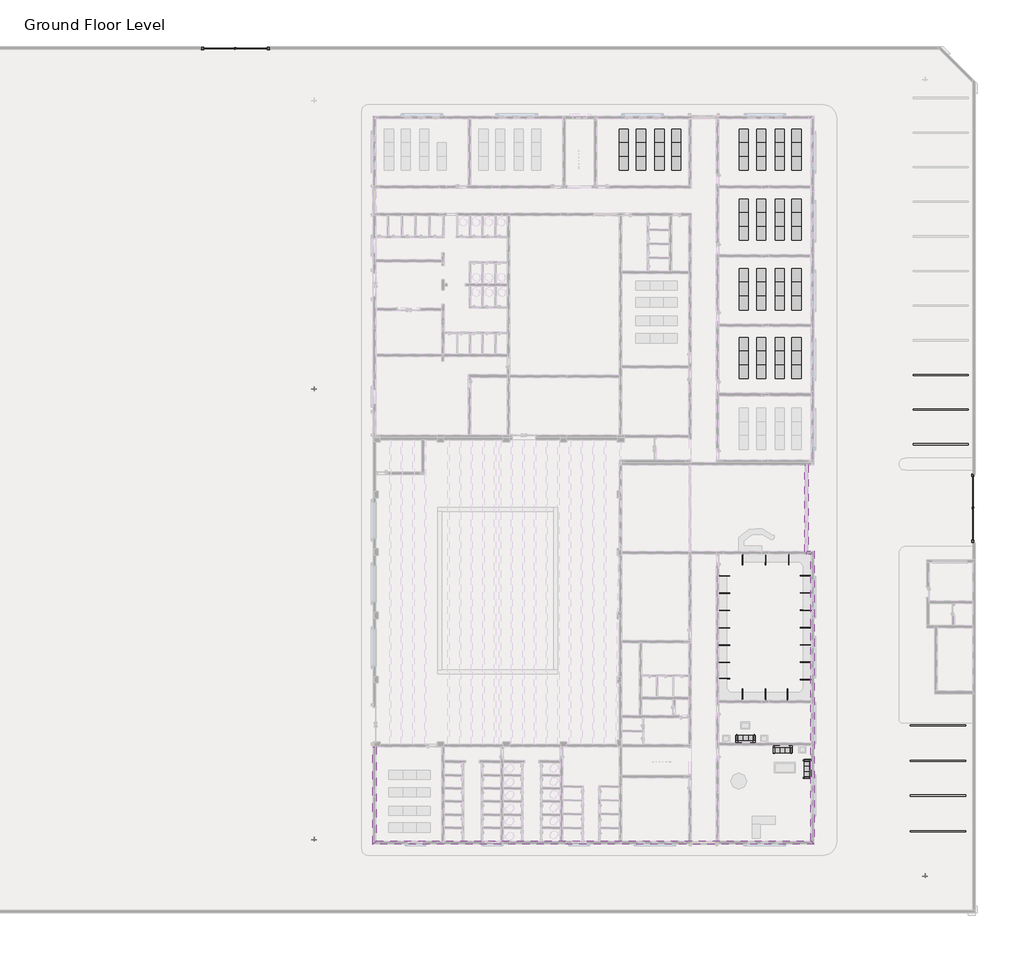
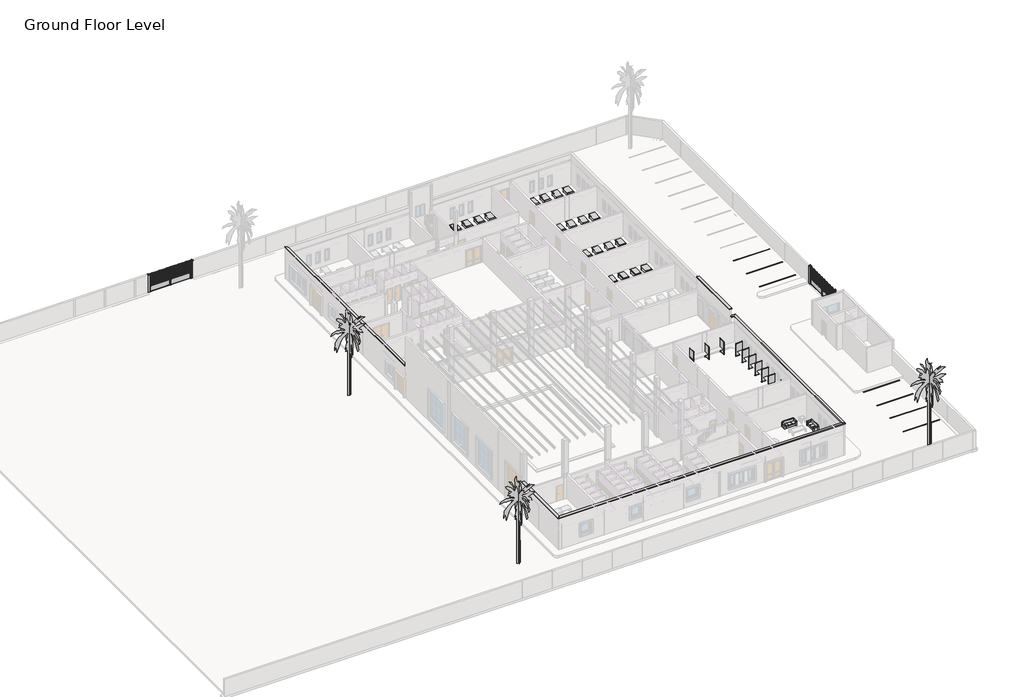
# One storey, part 22 of 23: 60 furniture elements, 49 proxies, 2 geographic elements.
"""IFC4 building model written with IfcOpenShell, lengths in millimetres."""

from ifc_helpers import new_model, si_unit, frame, origin, place, context, project, spatial, polyline, outline, extrude, transform, mapped, element, save
from components import m_parking_space_4800_x_2400mm_90_deg_2b7ae786, m_rpc_plants_cuban_royal_palm_0febebf2, sofa_three_seater_1650_x_700_mm_776af1f2, toilet_cubicle_extension_panel_toilet_cubicle_extension_13565868, toilet_cubicle_extension_panel_toilet_cubicle_extension_865a72fd, toilet_cubicle_extension_panel_toilet_cubicle_extension_87c51e1a, desk_120cm_1200x800_96458f44, norme_d9aae464, norme_461e92e3, norme_834bafc0

model = new_model("IFC4")

# Units and contexts
model_context = context("Model", 3, world=origin())
ifc_project = project(units=[si_unit("LENGTHUNIT", "METRE", prefix="MILLI")], contexts=[model_context])

# Site, building, storey
site = spatial("IfcSite", under=ifc_project)
building = spatial("IfcBuilding", under=site)
storey = spatial("IfcBuildingStorey", under=building, Name="Ground Floor Level", Elevation=900.0)

# Proxies
placement = place(None, origin())
element("IfcBuildingElementProxy", 1, Name="Cornice", ObjectType="Cornice", at=placement, inside=storey, context=model_context, shape_type="SweptSolid", body=[
    extrude(outline(polyline([(15803.0482736, -41104.7846466), (16103.0482736, -41404.7846466), (-22097.2327605, -41404.7846466), (-21797.2327605, -41104.7846466), (15803.0482736, -41104.7846466)])), frame((0.0, 0.0, 5302.8002678), z_axis=(0.0, 0.0, 1.0), x_axis=(1.0, 0.0, 0.0)), (0.0, 0.0, 1.0), 100.0),
    extrude(outline(polyline([(-21797.2327605, -41104.7846466), (-22097.2327605, -41404.7846466), (-22097.2327605, -32964.7846466), (-21797.2327605, -32964.7846466), (-21797.2327605, -41104.7846466)])), frame((0.0, 0.0, 5302.8002678), z_axis=(0.0, 0.0, 1.0), x_axis=(1.0, 0.0, 0.0)), (0.0, 0.0, 1.0), 100.0),
])
element("IfcBuildingElementProxy", 2, Name="Cornice", ObjectType="Cornice", at=placement, inside=storey, context=model_context, shape_type="SweptSolid", body=[
    extrude(outline(polyline([(-21797.2327605, -41104.7846466), (-22097.2327605, -41404.7846466), (-22097.2327605, -32964.7846466), (-21797.2327605, -32964.7846466), (-21797.2327605, -41104.7846466)])), frame((0.0, 0.0, 5302.8002678), z_axis=(0.0, 0.0, 1.0), x_axis=(1.0, 0.0, 0.0)), (0.0, 0.0, 1.0), 100.0),
])
element("IfcBuildingElementProxy", 3, Name="Cornice", ObjectType="Cornice", at=placement, inside=storey, context=model_context, shape_type="SweptSolid", body=[
    extrude(outline(polyline([(15803.0482736, -41104.7846466), (16103.0482736, -41404.7846466), (-22097.2327605, -41404.7846466), (-21797.2327605, -41104.7846466), (15803.0482736, -41104.7846466)])), frame((0.0, 0.0, 5302.8002678), z_axis=(0.0, 0.0, 1.0), x_axis=(1.0, 0.0, 0.0)), (0.0, 0.0, 1.0), 100.0),
])
element("IfcBuildingElementProxy", 4, Name="Cornice", ObjectType="Cornice", at=placement, inside=storey, context=model_context, shape_type="SweptSolid", body=[
    extrude(outline(polyline([(15803.0482736, -41104.7846466), (16103.0482736, -41404.7846466), (-22097.2327605, -41404.7846466), (-21797.2327605, -41104.7846466), (15803.0482736, -41104.7846466)])), frame((0.0, 0.0, 5302.8002678), z_axis=(0.0, 0.0, 1.0), x_axis=(1.0, 0.0, 0.0)), (0.0, 0.0, 1.0), 100.0),
])
element("IfcBuildingElementProxy", 5, Name="Cornice", ObjectType="Cornice", at=placement, inside=storey, context=model_context, shape_type="SweptSolid", body=[
    extrude(outline(polyline([(15803.0482736, -41104.7846466), (16103.0482736, -41404.7846466), (-22097.2327605, -41404.7846466), (-21797.2327605, -41104.7846466), (15803.0482736, -41104.7846466)])), frame((0.0, 0.0, 5302.8002678), z_axis=(0.0, 0.0, 1.0), x_axis=(1.0, 0.0, 0.0)), (0.0, 0.0, 1.0), 100.0),
])
element("IfcBuildingElementProxy", 6, Name="Cornice", ObjectType="Cornice", at=placement, inside=storey, context=model_context, shape_type="SweptSolid", body=[
    extrude(outline(polyline([(15803.0482736, -41104.7846466), (16103.0482736, -41404.7846466), (-22097.2327605, -41404.7846466), (-21797.2327605, -41104.7846466), (15803.0482736, -41104.7846466)])), frame((0.0, 0.0, 5302.8002678), z_axis=(0.0, 0.0, 1.0), x_axis=(1.0, 0.0, 0.0)), (0.0, 0.0, 1.0), 100.0),
])
element("IfcBuildingElementProxy", 7, Name="Cornice", ObjectType="Cornice", at=placement, inside=storey, context=model_context, shape_type="SweptSolid", body=[
    extrude(outline(polyline([(15803.0482736, -41104.7846466), (16103.0482736, -41404.7846466), (-22097.2327605, -41404.7846466), (-21797.2327605, -41104.7846466), (15803.0482736, -41104.7846466)])), frame((0.0, 0.0, 5302.8002678), z_axis=(0.0, 0.0, 1.0), x_axis=(1.0, 0.0, 0.0)), (0.0, 0.0, 1.0), 100.0),
    extrude(outline(polyline([(15803.0482736, -16304.7846466), (16103.0482736, -16004.7846466), (16103.0482736, -41404.7846466), (15803.0482736, -41104.7846466), (15803.0482736, -16304.7846466)])), frame((0.0, 0.0, 5302.8002678), z_axis=(0.0, 0.0, 1.0), x_axis=(1.0, 0.0, 0.0)), (0.0, 0.0, 1.0), 100.0),
])
element("IfcBuildingElementProxy", 8, Name="Cornice", ObjectType="Cornice", at=placement, inside=storey, context=model_context, shape_type="SweptSolid", body=[
    extrude(outline(polyline([(15602.7672395, -16044.7846466), (15302.7672395, -16044.7846466), (15302.7672395, -8564.7846466), (15602.7672395, -8564.7846466), (15602.7672395, -16044.7846466)])), frame((0.0, 0.0, 6301.5214377), z_axis=(0.0, 0.0, 1.0), x_axis=(1.0, 0.0, 0.0)), (0.0, 0.0, 1.0), 100.0),
])
element("IfcBuildingElementProxy", 9, Name="Cornice", ObjectType="Cornice", at=placement, inside=storey, context=model_context, shape_type="SweptSolid", body=[
    extrude(outline(polyline([(15803.0482736, -16304.7846466), (16103.0482736, -16004.7846466), (16103.0482736, -41404.7846466), (15803.0482736, -41104.7846466), (15803.0482736, -16304.7846466)])), frame((0.0, 0.0, 5302.8002678), z_axis=(0.0, 0.0, 1.0), x_axis=(1.0, 0.0, 0.0)), (0.0, 0.0, 1.0), 100.0),
])
element("IfcBuildingElementProxy", 10, Name="Cornice", ObjectType="Cornice", at=placement, inside=storey, context=model_context, shape_type="SweptSolid", body=[
    extrude(outline(polyline([(15803.0482736, -16304.7846466), (16103.0482736, -16004.7846466), (16103.0482736, -41404.7846466), (15803.0482736, -41104.7846466), (15803.0482736, -16304.7846466)])), frame((0.0, 0.0, 5302.8002678), z_axis=(0.0, 0.0, 1.0), x_axis=(1.0, 0.0, 0.0)), (0.0, 0.0, 1.0), 100.0),
])
element("IfcBuildingElementProxy", 11, Name="Cornice", ObjectType="Cornice", at=placement, inside=storey, context=model_context, shape_type="SweptSolid", body=[
    extrude(outline(polyline([(15803.0482736, -16304.7846466), (16103.0482736, -16004.7846466), (16103.0482736, -41404.7846466), (15803.0482736, -41104.7846466), (15803.0482736, -16304.7846466)])), frame((0.0, 0.0, 5302.8002678), z_axis=(0.0, 0.0, 1.0), x_axis=(1.0, 0.0, 0.0)), (0.0, 0.0, 1.0), 100.0),
])
element("IfcBuildingElementProxy", 12, Name="Cornice", ObjectType="Cornice", at=placement, inside=storey, context=model_context, shape_type="SweptSolid", body=[
    extrude(outline(polyline([(15452.7672395, -16304.7846466), (15452.7672395, -16004.7846466), (16103.0482736, -16004.7846466), (15803.0482736, -16304.7846466), (15452.7672395, -16304.7846466)])), frame((0.0, 0.0, 5302.8002678), z_axis=(0.0, 0.0, 1.0), x_axis=(1.0, 0.0, 0.0)), (0.0, 0.0, 1.0), 100.0),
    extrude(outline(polyline([(15803.0482736, -16304.7846466), (16103.0482736, -16004.7846466), (16103.0482736, -41404.7846466), (15803.0482736, -41104.7846466), (15803.0482736, -16304.7846466)])), frame((0.0, 0.0, 5302.8002678), z_axis=(0.0, 0.0, 1.0), x_axis=(1.0, 0.0, 0.0)), (0.0, 0.0, 1.0), 100.0),
])
element("IfcBuildingElementProxy", 13, Name="Cornice", ObjectType="Cornice", at=placement, inside=storey, context=model_context, shape_type="SweptSolid", body=[
    extrude(outline(polyline([(-21797.2327605, -5944.7846466), (-22097.2327605, -5944.7846466), (-22097.2327605, 21695.2153534), (-21797.2327605, 21395.2153534), (-21797.2327605, -5944.7846466)])), frame((0.0, 0.0, 5302.8002678), z_axis=(0.0, 0.0, 1.0), x_axis=(1.0, 0.0, 0.0)), (0.0, 0.0, 1.0), 100.0),
])
element("IfcBuildingElementProxy", 14, Name="Cornice", ObjectType="Cornice", at=placement, inside=storey, context=model_context, shape_type="SweptSolid", body=[
    extrude(outline(polyline([(-21797.2327605, -5944.7846466), (-22097.2327605, -5944.7846466), (-22097.2327605, 21695.2153534), (-21797.2327605, 21395.2153534), (-21797.2327605, -5944.7846466)])), frame((0.0, 0.0, 5302.8002678), z_axis=(0.0, 0.0, 1.0), x_axis=(1.0, 0.0, 0.0)), (0.0, 0.0, 1.0), 100.0),
])
element("IfcBuildingElementProxy", 15, Name="Cornice", ObjectType="Cornice", at=placement, inside=storey, context=model_context, shape_type="SweptSolid", body=[
    extrude(outline(polyline([(-21797.2327605, -5944.7846466), (-22097.2327605, -5944.7846466), (-22097.2327605, 21695.2153534), (-21797.2327605, 21395.2153534), (-21797.2327605, -5944.7846466)])), frame((0.0, 0.0, 5302.8002678), z_axis=(0.0, 0.0, 1.0), x_axis=(1.0, 0.0, 0.0)), (0.0, 0.0, 1.0), 100.0),
])
element("IfcBuildingElementProxy", 16, Name="Cornice", ObjectType="Cornice", at=placement, inside=storey, context=model_context, shape_type="SweptSolid", body=[
    extrude(outline(polyline([(-21797.2327605, -5944.7846466), (-22097.2327605, -5944.7846466), (-22097.2327605, 21695.2153534), (-21797.2327605, 21395.2153534), (-21797.2327605, -5944.7846466)])), frame((0.0, 0.0, 5302.8002678), z_axis=(0.0, 0.0, 1.0), x_axis=(1.0, 0.0, 0.0)), (0.0, 0.0, 1.0), 100.0),
])
m_parking_space_4800_x_2400mm_90_deg_shape = m_parking_space_4800_x_2400mm_90_deg_2b7ae786(model_context)
element("IfcBuildingElementProxy", 17, Name="M_Parking Space : 4800 x 2400mm - 90 deg", ObjectType="M_Parking Space : 4800 x 2400mm - 90 deg", at=placement, inside=storey, context=model_context, shape_type="MappedRepresentation", body=[
    mapped(m_parking_space_4800_x_2400mm_90_deg_shape, transform((29462.7672395, -754.7846468, 600.0), x_axis=(0.0, -1.0, 0.0), y_axis=(1.0, 0.0, 0.0), z_axis=(0.0, 0.0, 1.0))),
])
element("IfcBuildingElementProxy", 18, Name="M_Parking Space : 4800 x 2400mm - 90 deg", ObjectType="M_Parking Space : 4800 x 2400mm - 90 deg", at=placement, inside=storey, context=model_context, shape_type="MappedRepresentation", body=[
    mapped(m_parking_space_4800_x_2400mm_90_deg_shape, transform((29462.7672395, -3754.7846468, 600.0), x_axis=(0.0, -1.0, 0.0), y_axis=(1.0, 0.0, 0.0), z_axis=(0.0, 0.0, 1.0))),
])
element("IfcBuildingElementProxy", 19, Name="M_Parking Space : 4800 x 2400mm - 90 deg", ObjectType="M_Parking Space : 4800 x 2400mm - 90 deg", at=placement, inside=storey, context=model_context, shape_type="MappedRepresentation", body=[
    mapped(m_parking_space_4800_x_2400mm_90_deg_shape, transform((29462.7672395, -6754.7846468, 600.0), x_axis=(0.0, -1.0, 0.0), y_axis=(1.0, 0.0, 0.0), z_axis=(0.0, 0.0, 1.0))),
])
element("IfcBuildingElementProxy", 20, Name="M_Parking Space : 4800 x 2400mm - 90 deg", ObjectType="M_Parking Space : 4800 x 2400mm - 90 deg", at=placement, inside=storey, context=model_context, shape_type="MappedRepresentation", body=[
    mapped(m_parking_space_4800_x_2400mm_90_deg_shape, transform((29242.7672395, -31104.7846459, 600.0), x_axis=(0.0, -1.0, 0.0), y_axis=(1.0, 0.0, 0.0), z_axis=(0.0, 0.0, 1.0))),
])
element("IfcBuildingElementProxy", 21, Name="M_Parking Space : 4800 x 2400mm - 90 deg", ObjectType="M_Parking Space : 4800 x 2400mm - 90 deg", at=placement, inside=storey, context=model_context, shape_type="MappedRepresentation", body=[
    mapped(m_parking_space_4800_x_2400mm_90_deg_shape, transform((29242.7672395, -34196.1301006, 600.0), x_axis=(0.0, -1.0, 0.0), y_axis=(1.0, 0.0, 0.0), z_axis=(0.0, 0.0, 1.0))),
])
element("IfcBuildingElementProxy", 22, Name="M_Parking Space : 4800 x 2400mm - 90 deg", ObjectType="M_Parking Space : 4800 x 2400mm - 90 deg", at=placement, inside=storey, context=model_context, shape_type="MappedRepresentation", body=[
    mapped(m_parking_space_4800_x_2400mm_90_deg_shape, transform((29242.7672395, -37196.1301006, 600.0), x_axis=(0.0, -1.0, 0.0), y_axis=(1.0, 0.0, 0.0), z_axis=(0.0, 0.0, 1.0))),
])
element("IfcBuildingElementProxy", 23, Name="M_Parking Space : 4800 x 2400mm - 90 deg", ObjectType="M_Parking Space : 4800 x 2400mm - 90 deg", at=placement, inside=storey, context=model_context, shape_type="MappedRepresentation", body=[
    mapped(m_parking_space_4800_x_2400mm_90_deg_shape, transform((29242.7672395, -40296.1301006, 600.0), x_axis=(0.0, -1.0, 0.0), y_axis=(1.0, 0.0, 0.0), z_axis=(0.0, 0.0, 1.0))),
])
m_rpc_plants_cuban_royal_palm_shape = m_rpc_plants_cuban_royal_palm_0febebf2(model_context)
element("IfcBuildingElementProxy", 24, Name="M_RPC Plants : Cuban Royal Palm", ObjectType="M_RPC Plants : Cuban Royal Palm", at=placement, inside=storey, context=model_context, shape_type="MappedRepresentation", body=[
    mapped(m_rpc_plants_cuban_royal_palm_shape, transform((-27196.8558395, -1997.0706872, 500.0), x_axis=(1.0, 0.0, 0.0), y_axis=(0.0, 1.0, 0.0), z_axis=(0.0, 0.0, 1.0))),
])
element("IfcBuildingElementProxy", 25, Name="M_RPC Plants : Cuban Royal Palm", ObjectType="M_RPC Plants : Cuban Royal Palm", at=placement, inside=storey, context=model_context, shape_type="MappedRepresentation", body=[
    mapped(m_rpc_plants_cuban_royal_palm_shape, transform((-27196.8558395, -41017.0706872, 500.0), x_axis=(1.0, 0.0, 0.0), y_axis=(0.0, 1.0, 0.0), z_axis=(0.0, 0.0, 1.0))),
])
element("IfcBuildingElementProxy", 26, Name="M_RPC Plants : Cuban Royal Palm", ObjectType="M_RPC Plants : Cuban Royal Palm", at=placement, inside=storey, context=model_context, shape_type="MappedRepresentation", body=[
    mapped(m_rpc_plants_cuban_royal_palm_shape, transform((25703.1441605, -44169.7619811, 500.0), x_axis=(1.0, 0.0, 0.0), y_axis=(0.0, 1.0, 0.0), z_axis=(0.0, 0.0, 1.0))),
])
sofa_three_seater_1650_x_700_mm_shape = sofa_three_seater_1650_x_700_mm_776af1f2(model_context)
element("IfcBuildingElementProxy", 27, Name="Sofa Three Seater : 1650 x 700 mm", ObjectType="Sofa Three Seater : 1650 x 700 mm", at=placement, inside=storey, context=model_context, shape_type="MappedRepresentation", body=[
    mapped(sofa_three_seater_1650_x_700_mm_shape, transform((10161.7423977, -32256.5047258, 1000.0), x_axis=(-1.0, 0.0, 0.0), y_axis=(0.0, -1.0, 0.0), z_axis=(0.0, 0.0, 1.0))),
])
element("IfcBuildingElementProxy", 28, Name="Sofa Three Seater : 1650 x 700 mm", ObjectType="Sofa Three Seater : 1650 x 700 mm", at=placement, inside=storey, context=model_context, shape_type="MappedRepresentation", body=[
    mapped(sofa_three_seater_1650_x_700_mm_shape, transform((13374.4908153, -33204.7846467, 1000.0), x_axis=(0.9999999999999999, 0.0, 0.0), y_axis=(0.0, 0.9999999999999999, 0.0), z_axis=(0.0, 0.0, 1.0))),
])
element("IfcBuildingElementProxy", 29, Name="Sofa Three Seater : 1650 x 700 mm", ObjectType="Sofa Three Seater : 1650 x 700 mm", at=placement, inside=storey, context=model_context, shape_type="MappedRepresentation", body=[
    mapped(sofa_three_seater_1650_x_700_mm_shape, transform((15502.7672394, -34897.6404237, 1000.0), x_axis=(0.0, -1.0, 0.0), y_axis=(1.0, 0.0, 0.0), z_axis=(0.0, 0.0, 1.0))),
])
toilet_cubicle_extension_panel_toilet_cubicle_extension_shape = toilet_cubicle_extension_panel_toilet_cubicle_extension_13565868(model_context)
element("IfcBuildingElementProxy", 30, Name="Toilet Cubicle Extension Panel : Toilet Cubicle Extension Panel", ObjectType="Toilet Cubicle Extension Panel : Toilet Cubicle Extension Panel", at=placement, inside=storey, context=model_context, shape_type="MappedRepresentation", body=[
    mapped(toilet_cubicle_extension_panel_toilet_cubicle_extension_shape, transform((11702.7672395, -15866.8535761, 1000.0), x_axis=(0.0, -1.0, 0.0), y_axis=(1.0, 0.0, 0.0), z_axis=(0.0, 0.0, 1.0))),
])
element("IfcBuildingElementProxy", 31, Name="Toilet Cubicle Extension Panel : Toilet Cubicle Extension Panel", ObjectType="Toilet Cubicle Extension Panel : Toilet Cubicle Extension Panel", at=placement, inside=storey, context=model_context, shape_type="MappedRepresentation", body=[
    mapped(toilet_cubicle_extension_panel_toilet_cubicle_extension_shape, transform((13702.7672395, -15866.8535761, 1000.0), x_axis=(0.0, -1.0, 0.0), y_axis=(1.0, 0.0, 0.0), z_axis=(0.0, 0.0, 1.0))),
])
element("IfcBuildingElementProxy", 32, Name="Toilet Cubicle Extension Panel : Toilet Cubicle Extension Panel", ObjectType="Toilet Cubicle Extension Panel : Toilet Cubicle Extension Panel", at=placement, inside=storey, context=model_context, shape_type="MappedRepresentation", body=[
    mapped(toilet_cubicle_extension_panel_toilet_cubicle_extension_shape, transform((15712.7672395, -15866.8535761, 1000.0), x_axis=(0.0, -1.0, 0.0), y_axis=(1.0, 0.0, 0.0), z_axis=(0.0, 0.0, 1.0))),
])
toilet_cubicle_extension_panel_toilet_cubicle_extension_2_shape = toilet_cubicle_extension_panel_toilet_cubicle_extension_865a72fd(model_context)
element("IfcBuildingElementProxy", 33, Name="Toilet Cubicle Extension Panel : Toilet Cubicle Extension Panel", ObjectType="Toilet Cubicle Extension Panel : Toilet Cubicle Extension Panel", at=placement, inside=storey, context=model_context, shape_type="MappedRepresentation", body=[
    mapped(toilet_cubicle_extension_panel_toilet_cubicle_extension_2_shape, transform((16240.9793442, -19954.7846466, 1000.0), x_axis=(-1.0, 0.0, 0.0), y_axis=(0.0, -1.0, 0.0), z_axis=(0.0, 0.0, 1.0))),
])
element("IfcBuildingElementProxy", 34, Name="Toilet Cubicle Extension Panel : Toilet Cubicle Extension Panel", ObjectType="Toilet Cubicle Extension Panel : Toilet Cubicle Extension Panel", at=placement, inside=storey, context=model_context, shape_type="MappedRepresentation", body=[
    mapped(toilet_cubicle_extension_panel_toilet_cubicle_extension_2_shape, transform((16240.9793442, -21444.7846466, 1000.0), x_axis=(-1.0, 0.0, 0.0), y_axis=(0.0, -1.0, 0.0), z_axis=(0.0, 0.0, 1.0))),
])
element("IfcBuildingElementProxy", 35, Name="Toilet Cubicle Extension Panel : Toilet Cubicle Extension Panel", ObjectType="Toilet Cubicle Extension Panel : Toilet Cubicle Extension Panel", at=placement, inside=storey, context=model_context, shape_type="MappedRepresentation", body=[
    mapped(toilet_cubicle_extension_panel_toilet_cubicle_extension_2_shape, transform((16240.9793442, -22944.7846466, 1000.0), x_axis=(-1.0, 0.0, 0.0), y_axis=(0.0, -1.0, 0.0), z_axis=(0.0, 0.0, 1.0))),
])
element("IfcBuildingElementProxy", 36, Name="Toilet Cubicle Extension Panel : Toilet Cubicle Extension Panel", ObjectType="Toilet Cubicle Extension Panel : Toilet Cubicle Extension Panel", at=placement, inside=storey, context=model_context, shape_type="MappedRepresentation", body=[
    mapped(toilet_cubicle_extension_panel_toilet_cubicle_extension_2_shape, transform((16240.9793442, -24444.2219449, 1000.0), x_axis=(-1.0, 0.0, 0.0), y_axis=(0.0, -1.0, 0.0), z_axis=(0.0, 0.0, 1.0))),
])
element("IfcBuildingElementProxy", 37, Name="Toilet Cubicle Extension Panel : Toilet Cubicle Extension Panel", ObjectType="Toilet Cubicle Extension Panel : Toilet Cubicle Extension Panel", at=placement, inside=storey, context=model_context, shape_type="MappedRepresentation", body=[
    mapped(toilet_cubicle_extension_panel_toilet_cubicle_extension_2_shape, transform((16240.9793442, -25943.6592431, 1000.0), x_axis=(-1.0, 0.0, 0.0), y_axis=(0.0, -1.0, 0.0), z_axis=(0.0, 0.0, 1.0))),
])
element("IfcBuildingElementProxy", 38, Name="Toilet Cubicle Extension Panel : Toilet Cubicle Extension Panel", ObjectType="Toilet Cubicle Extension Panel : Toilet Cubicle Extension Panel", at=placement, inside=storey, context=model_context, shape_type="MappedRepresentation", body=[
    mapped(toilet_cubicle_extension_panel_toilet_cubicle_extension_2_shape, transform((16240.9793442, -27443.0965414, 1000.0), x_axis=(-1.0, 0.0, 0.0), y_axis=(0.0, -1.0, 0.0), z_axis=(0.0, 0.0, 1.0))),
])
element("IfcBuildingElementProxy", 39, Name="Toilet Cubicle Extension Panel : Toilet Cubicle Extension Panel", ObjectType="Toilet Cubicle Extension Panel : Toilet Cubicle Extension Panel", at=placement, inside=storey, context=model_context, shape_type="MappedRepresentation", body=[
    mapped(toilet_cubicle_extension_panel_toilet_cubicle_extension_2_shape, transform((16240.9793442, -28942.5338397, 1000.0), x_axis=(-1.0, 0.0, 0.0), y_axis=(0.0, -1.0, 0.0), z_axis=(0.0, 0.0, 1.0))),
])
toilet_cubicle_extension_panel_toilet_cubicle_extension_3_shape = toilet_cubicle_extension_panel_toilet_cubicle_extension_87c51e1a(model_context)
element("IfcBuildingElementProxy", 40, Name="Toilet Cubicle Extension Panel : Toilet Cubicle Extension Panel", ObjectType="Toilet Cubicle Extension Panel : Toilet Cubicle Extension Panel", at=placement, inside=storey, context=model_context, shape_type="MappedRepresentation", body=[
    mapped(toilet_cubicle_extension_panel_toilet_cubicle_extension_3_shape, transform((12002.7672395, -29317.7157172, 1000.0), x_axis=(0.0, 1.0, 0.0), y_axis=(-1.0, 0.0, 0.0), z_axis=(0.0, 0.0, 1.0))),
])
element("IfcBuildingElementProxy", 41, Name="Toilet Cubicle Extension Panel : Toilet Cubicle Extension Panel", ObjectType="Toilet Cubicle Extension Panel : Toilet Cubicle Extension Panel", at=placement, inside=storey, context=model_context, shape_type="MappedRepresentation", body=[
    mapped(toilet_cubicle_extension_panel_toilet_cubicle_extension_3_shape, transform((10092.7672395, -29317.7157172, 1000.0), x_axis=(0.0, 1.0, 0.0), y_axis=(-1.0, 0.0, 0.0), z_axis=(0.0, 0.0, 1.0))),
])
element("IfcBuildingElementProxy", 42, Name="Toilet Cubicle Extension Panel : Toilet Cubicle Extension Panel", ObjectType="Toilet Cubicle Extension Panel : Toilet Cubicle Extension Panel", at=placement, inside=storey, context=model_context, shape_type="MappedRepresentation", body=[
    mapped(toilet_cubicle_extension_panel_toilet_cubicle_extension_3_shape, transform((8092.7672395, -29317.7157172, 1000.0), x_axis=(0.0, 1.0, 0.0), y_axis=(-1.0, 0.0, 0.0), z_axis=(0.0, 0.0, 1.0))),
])
element("IfcBuildingElementProxy", 43, Name="Toilet Cubicle Extension Panel : Toilet Cubicle Extension Panel", ObjectType="Toilet Cubicle Extension Panel : Toilet Cubicle Extension Panel", at=placement, inside=storey, context=model_context, shape_type="MappedRepresentation", body=[
    mapped(toilet_cubicle_extension_panel_toilet_cubicle_extension_3_shape, transform((7464.8361689, -25252.5338397, 1000.0), x_axis=(1.0, 0.0, 0.0), y_axis=(0.0, 1.0, 0.0), z_axis=(0.0, 0.0, 1.0))),
])
element("IfcBuildingElementProxy", 44, Name="Toilet Cubicle Extension Panel : Toilet Cubicle Extension Panel", ObjectType="Toilet Cubicle Extension Panel : Toilet Cubicle Extension Panel", at=placement, inside=storey, context=model_context, shape_type="MappedRepresentation", body=[
    mapped(toilet_cubicle_extension_panel_toilet_cubicle_extension_3_shape, transform((7464.8361689, -23863.0965414, 1000.0), x_axis=(1.0, 0.0, 0.0), y_axis=(0.0, 1.0, 0.0), z_axis=(0.0, 0.0, 1.0))),
])
element("IfcBuildingElementProxy", 45, Name="Toilet Cubicle Extension Panel : Toilet Cubicle Extension Panel", ObjectType="Toilet Cubicle Extension Panel : Toilet Cubicle Extension Panel", at=placement, inside=storey, context=model_context, shape_type="MappedRepresentation", body=[
    mapped(toilet_cubicle_extension_panel_toilet_cubicle_extension_3_shape, transform((7464.8361689, -22363.6592431, 1000.0), x_axis=(1.0, 0.0, 0.0), y_axis=(0.0, 1.0, 0.0), z_axis=(0.0, 0.0, 1.0))),
])
element("IfcBuildingElementProxy", 46, Name="Toilet Cubicle Extension Panel : Toilet Cubicle Extension Panel", ObjectType="Toilet Cubicle Extension Panel : Toilet Cubicle Extension Panel", at=placement, inside=storey, context=model_context, shape_type="MappedRepresentation", body=[
    mapped(toilet_cubicle_extension_panel_toilet_cubicle_extension_3_shape, transform((7464.8361689, -20864.2219449, 1000.0), x_axis=(1.0, 0.0, 0.0), y_axis=(0.0, 1.0, 0.0), z_axis=(0.0, 0.0, 1.0))),
])
element("IfcBuildingElementProxy", 47, Name="Toilet Cubicle Extension Panel : Toilet Cubicle Extension Panel", ObjectType="Toilet Cubicle Extension Panel : Toilet Cubicle Extension Panel", at=placement, inside=storey, context=model_context, shape_type="MappedRepresentation", body=[
    mapped(toilet_cubicle_extension_panel_toilet_cubicle_extension_3_shape, transform((7464.8361689, -19364.2219449, 1000.0), x_axis=(1.0, 0.0, 0.0), y_axis=(0.0, 1.0, 0.0), z_axis=(0.0, 0.0, 1.0))),
])
element("IfcBuildingElementProxy", 48, Name="Toilet Cubicle Extension Panel : Toilet Cubicle Extension Panel", ObjectType="Toilet Cubicle Extension Panel : Toilet Cubicle Extension Panel", at=placement, inside=storey, context=model_context, shape_type="MappedRepresentation", body=[
    mapped(toilet_cubicle_extension_panel_toilet_cubicle_extension_3_shape, transform((7464.8361689, -17864.2219449, 1000.0), x_axis=(1.0, 0.0, 0.0), y_axis=(0.0, 1.0, 0.0), z_axis=(0.0, 0.0, 1.0))),
])
element("IfcBuildingElementProxy", 49, Name="Toilet Cubicle Extension Panel : Toilet Cubicle Extension Panel", ObjectType="Toilet Cubicle Extension Panel : Toilet Cubicle Extension Panel", at=placement, inside=storey, context=model_context, shape_type="MappedRepresentation", body=[
    mapped(toilet_cubicle_extension_panel_toilet_cubicle_extension_3_shape, transform((7464.8361689, -16364.2219449, 1000.0), x_axis=(1.0, 0.0, 0.0), y_axis=(0.0, 1.0, 0.0), z_axis=(0.0, 0.0, 1.0))),
])

# Furniture
desk_120cm_1200x800_shape = desk_120cm_1200x800_96458f44(model_context)
element("IfcFurniture", 50, ObjectType="Desk -120cm : 1200x800", at=placement, inside=storey, context=model_context, shape_type="MappedRepresentation", body=[
    mapped(desk_120cm_1200x800_shape, transform((7.7582381, 18163.9275564, 900.0), x_axis=(-1.0, 0.0, 0.0), y_axis=(0.0, -1.0, 0.0), z_axis=(0.0, 0.0, 1.0))),
])
element("IfcFurniture", 51, ObjectType="Desk -120cm : 1200x800", at=placement, inside=storey, context=model_context, shape_type="MappedRepresentation", body=[
    mapped(desk_120cm_1200x800_shape, transform((7.7582381, 19358.9275564, 900.0), x_axis=(-1.0, 0.0, 0.0), y_axis=(0.0, -1.0, 0.0), z_axis=(0.0, 0.0, 1.0))),
])
element("IfcFurniture", 52, ObjectType="Desk -120cm : 1200x800", at=placement, inside=storey, context=model_context, shape_type="MappedRepresentation", body=[
    mapped(desk_120cm_1200x800_shape, transform((7.7582381, 20553.9275564, 900.0), x_axis=(-1.0, 0.0, 0.0), y_axis=(0.0, -1.0, 0.0), z_axis=(0.0, 0.0, 1.0))),
])
element("IfcFurniture", 53, ObjectType="Desk -120cm : 1200x800", at=placement, inside=storey, context=model_context, shape_type="MappedRepresentation", body=[
    mapped(desk_120cm_1200x800_shape, transform((1515.4397827, 18163.9275564, 900.0), x_axis=(-1.0, 0.0, 0.0), y_axis=(0.0, -1.0, 0.0), z_axis=(0.0, 0.0, 1.0))),
])
element("IfcFurniture", 54, ObjectType="Desk -120cm : 1200x800", at=placement, inside=storey, context=model_context, shape_type="MappedRepresentation", body=[
    mapped(desk_120cm_1200x800_shape, transform((1515.4397827, 19358.9275564, 900.0), x_axis=(-1.0, 0.0, 0.0), y_axis=(0.0, -1.0, 0.0), z_axis=(0.0, 0.0, 1.0))),
])
element("IfcFurniture", 55, ObjectType="Desk -120cm : 1200x800", at=placement, inside=storey, context=model_context, shape_type="MappedRepresentation", body=[
    mapped(desk_120cm_1200x800_shape, transform((1515.4397827, 20553.9275564, 900.0), x_axis=(-1.0, 0.0, 0.0), y_axis=(0.0, -1.0, 0.0), z_axis=(0.0, 0.0, 1.0))),
])
element("IfcFurniture", 56, ObjectType="Desk -120cm : 1200x800", at=placement, inside=storey, context=model_context, shape_type="MappedRepresentation", body=[
    mapped(desk_120cm_1200x800_shape, transform((3115.4397827, 18163.9275564, 900.0), x_axis=(-1.0, 0.0, 0.0), y_axis=(0.0, -1.0, 0.0), z_axis=(0.0, 0.0, 1.0))),
])
element("IfcFurniture", 57, ObjectType="Desk -120cm : 1200x800", at=placement, inside=storey, context=model_context, shape_type="MappedRepresentation", body=[
    mapped(desk_120cm_1200x800_shape, transform((3115.4397827, 19358.9275564, 900.0), x_axis=(-1.0, 0.0, 0.0), y_axis=(0.0, -1.0, 0.0), z_axis=(0.0, 0.0, 1.0))),
])
element("IfcFurniture", 58, ObjectType="Desk -120cm : 1200x800", at=placement, inside=storey, context=model_context, shape_type="MappedRepresentation", body=[
    mapped(desk_120cm_1200x800_shape, transform((3115.4397827, 20553.9275564, 900.0), x_axis=(-1.0, 0.0, 0.0), y_axis=(0.0, -1.0, 0.0), z_axis=(0.0, 0.0, 1.0))),
])
element("IfcFurniture", 59, ObjectType="Desk -120cm : 1200x800", at=placement, inside=storey, context=model_context, shape_type="MappedRepresentation", body=[
    mapped(desk_120cm_1200x800_shape, transform((4572.0525795, 18163.9275564, 900.0), x_axis=(-1.0, 0.0, 0.0), y_axis=(0.0, -1.0, 0.0), z_axis=(0.0, 0.0, 1.0))),
])
element("IfcFurniture", 60, ObjectType="Desk -120cm : 1200x800", at=placement, inside=storey, context=model_context, shape_type="MappedRepresentation", body=[
    mapped(desk_120cm_1200x800_shape, transform((4572.0525795, 19358.9275564, 900.0), x_axis=(-1.0, 0.0, 0.0), y_axis=(0.0, -1.0, 0.0), z_axis=(0.0, 0.0, 1.0))),
])
element("IfcFurniture", 61, ObjectType="Desk -120cm : 1200x800", at=placement, inside=storey, context=model_context, shape_type="MappedRepresentation", body=[
    mapped(desk_120cm_1200x800_shape, transform((4572.0525795, 20553.9275564, 900.0), x_axis=(-1.0, 0.0, 0.0), y_axis=(0.0, -1.0, 0.0), z_axis=(0.0, 0.0, 1.0))),
])
element("IfcFurniture", 62, ObjectType="Desk -120cm : 1200x800", at=placement, inside=storey, context=model_context, shape_type="MappedRepresentation", body=[
    mapped(desk_120cm_1200x800_shape, transform((10410.0766935, 18163.9275564, 900.0), x_axis=(-1.0, 0.0, 0.0), y_axis=(0.0, -1.0, 0.0), z_axis=(0.0, 0.0, 1.0))),
])
element("IfcFurniture", 63, ObjectType="Desk -120cm : 1200x800", at=placement, inside=storey, context=model_context, shape_type="MappedRepresentation", body=[
    mapped(desk_120cm_1200x800_shape, transform((10410.0766935, 19358.9275564, 900.0), x_axis=(-1.0, 0.0, 0.0), y_axis=(0.0, -1.0, 0.0), z_axis=(0.0, 0.0, 1.0))),
])
element("IfcFurniture", 64, ObjectType="Desk -120cm : 1200x800", at=placement, inside=storey, context=model_context, shape_type="MappedRepresentation", body=[
    mapped(desk_120cm_1200x800_shape, transform((10410.0766935, 20553.9275564, 900.0), x_axis=(-1.0, 0.0, 0.0), y_axis=(0.0, -1.0, 0.0), z_axis=(0.0, 0.0, 1.0))),
])
element("IfcFurniture", 65, ObjectType="Desk -120cm : 1200x800", at=placement, inside=storey, context=model_context, shape_type="MappedRepresentation", body=[
    mapped(desk_120cm_1200x800_shape, transform((11917.7582381, 18163.9275564, 900.0), x_axis=(-1.0, 0.0, 0.0), y_axis=(0.0, -1.0, 0.0), z_axis=(0.0, 0.0, 1.0))),
])
element("IfcFurniture", 66, ObjectType="Desk -120cm : 1200x800", at=placement, inside=storey, context=model_context, shape_type="MappedRepresentation", body=[
    mapped(desk_120cm_1200x800_shape, transform((11917.7582381, 19358.9275564, 900.0), x_axis=(-1.0, 0.0, 0.0), y_axis=(0.0, -1.0, 0.0), z_axis=(0.0, 0.0, 1.0))),
])
element("IfcFurniture", 67, ObjectType="Desk -120cm : 1200x800", at=placement, inside=storey, context=model_context, shape_type="MappedRepresentation", body=[
    mapped(desk_120cm_1200x800_shape, transform((11917.7582381, 20553.9275564, 900.0), x_axis=(-1.0, 0.0, 0.0), y_axis=(0.0, -1.0, 0.0), z_axis=(0.0, 0.0, 1.0))),
])
element("IfcFurniture", 68, ObjectType="Desk -120cm : 1200x800", at=placement, inside=storey, context=model_context, shape_type="MappedRepresentation", body=[
    mapped(desk_120cm_1200x800_shape, transform((13517.7582381, 18163.9275564, 900.0), x_axis=(-1.0, 0.0, 0.0), y_axis=(0.0, -1.0, 0.0), z_axis=(0.0, 0.0, 1.0))),
])
element("IfcFurniture", 69, ObjectType="Desk -120cm : 1200x800", at=placement, inside=storey, context=model_context, shape_type="MappedRepresentation", body=[
    mapped(desk_120cm_1200x800_shape, transform((13517.7582381, 19358.9275564, 900.0), x_axis=(-1.0, 0.0, 0.0), y_axis=(0.0, -1.0, 0.0), z_axis=(0.0, 0.0, 1.0))),
])
element("IfcFurniture", 70, ObjectType="Desk -120cm : 1200x800", at=placement, inside=storey, context=model_context, shape_type="MappedRepresentation", body=[
    mapped(desk_120cm_1200x800_shape, transform((13517.7582381, 20553.9275564, 900.0), x_axis=(-1.0, 0.0, 0.0), y_axis=(0.0, -1.0, 0.0), z_axis=(0.0, 0.0, 1.0))),
])
element("IfcFurniture", 71, ObjectType="Desk -120cm : 1200x800", at=placement, inside=storey, context=model_context, shape_type="MappedRepresentation", body=[
    mapped(desk_120cm_1200x800_shape, transform((14974.3710349, 18163.9275564, 900.0), x_axis=(-1.0, 0.0, 0.0), y_axis=(0.0, -1.0, 0.0), z_axis=(0.0, 0.0, 1.0))),
])
element("IfcFurniture", 72, ObjectType="Desk -120cm : 1200x800", at=placement, inside=storey, context=model_context, shape_type="MappedRepresentation", body=[
    mapped(desk_120cm_1200x800_shape, transform((14974.3710349, 19358.9275564, 900.0), x_axis=(-1.0, 0.0, 0.0), y_axis=(0.0, -1.0, 0.0), z_axis=(0.0, 0.0, 1.0))),
])
element("IfcFurniture", 73, ObjectType="Desk -120cm : 1200x800", at=placement, inside=storey, context=model_context, shape_type="MappedRepresentation", body=[
    mapped(desk_120cm_1200x800_shape, transform((14974.3710349, 20553.9275564, 900.0), x_axis=(-1.0, 0.0, 0.0), y_axis=(0.0, -1.0, 0.0), z_axis=(0.0, 0.0, 1.0))),
])
element("IfcFurniture", 74, ObjectType="Desk -120cm : 1200x800", at=placement, inside=storey, context=model_context, shape_type="MappedRepresentation", body=[
    mapped(desk_120cm_1200x800_shape, transform((10410.0766935, 12098.2374946, 900.0), x_axis=(-1.0, 0.0, 0.0), y_axis=(0.0, -1.0, 0.0), z_axis=(0.0, 0.0, 1.0))),
])
element("IfcFurniture", 75, ObjectType="Desk -120cm : 1200x800", at=placement, inside=storey, context=model_context, shape_type="MappedRepresentation", body=[
    mapped(desk_120cm_1200x800_shape, transform((10410.0766935, 13293.2374946, 900.0), x_axis=(-1.0, 0.0, 0.0), y_axis=(0.0, -1.0, 0.0), z_axis=(0.0, 0.0, 1.0))),
])
element("IfcFurniture", 76, ObjectType="Desk -120cm : 1200x800", at=placement, inside=storey, context=model_context, shape_type="MappedRepresentation", body=[
    mapped(desk_120cm_1200x800_shape, transform((10410.0766935, 14488.2374946, 900.0), x_axis=(-1.0, 0.0, 0.0), y_axis=(0.0, -1.0, 0.0), z_axis=(0.0, 0.0, 1.0))),
])
element("IfcFurniture", 77, ObjectType="Desk -120cm : 1200x800", at=placement, inside=storey, context=model_context, shape_type="MappedRepresentation", body=[
    mapped(desk_120cm_1200x800_shape, transform((11917.7582381, 12098.2374946, 900.0), x_axis=(-1.0, 0.0, 0.0), y_axis=(0.0, -1.0, 0.0), z_axis=(0.0, 0.0, 1.0))),
])
element("IfcFurniture", 78, ObjectType="Desk -120cm : 1200x800", at=placement, inside=storey, context=model_context, shape_type="MappedRepresentation", body=[
    mapped(desk_120cm_1200x800_shape, transform((11917.7582381, 13293.2374946, 900.0), x_axis=(-1.0, 0.0, 0.0), y_axis=(0.0, -1.0, 0.0), z_axis=(0.0, 0.0, 1.0))),
])
element("IfcFurniture", 79, ObjectType="Desk -120cm : 1200x800", at=placement, inside=storey, context=model_context, shape_type="MappedRepresentation", body=[
    mapped(desk_120cm_1200x800_shape, transform((11917.7582381, 14488.2374946, 900.0), x_axis=(-1.0, 0.0, 0.0), y_axis=(0.0, -1.0, 0.0), z_axis=(0.0, 0.0, 1.0))),
])
element("IfcFurniture", 80, ObjectType="Desk -120cm : 1200x800", at=placement, inside=storey, context=model_context, shape_type="MappedRepresentation", body=[
    mapped(desk_120cm_1200x800_shape, transform((13517.7582381, 12098.2374946, 900.0), x_axis=(-1.0, 0.0, 0.0), y_axis=(0.0, -1.0, 0.0), z_axis=(0.0, 0.0, 1.0))),
])
element("IfcFurniture", 81, ObjectType="Desk -120cm : 1200x800", at=placement, inside=storey, context=model_context, shape_type="MappedRepresentation", body=[
    mapped(desk_120cm_1200x800_shape, transform((13517.7582381, 13293.2374946, 900.0), x_axis=(-1.0, 0.0, 0.0), y_axis=(0.0, -1.0, 0.0), z_axis=(0.0, 0.0, 1.0))),
])
element("IfcFurniture", 82, ObjectType="Desk -120cm : 1200x800", at=placement, inside=storey, context=model_context, shape_type="MappedRepresentation", body=[
    mapped(desk_120cm_1200x800_shape, transform((13517.7582381, 14488.2374946, 900.0), x_axis=(-1.0, 0.0, 0.0), y_axis=(0.0, -1.0, 0.0), z_axis=(0.0, 0.0, 1.0))),
])
element("IfcFurniture", 83, ObjectType="Desk -120cm : 1200x800", at=placement, inside=storey, context=model_context, shape_type="MappedRepresentation", body=[
    mapped(desk_120cm_1200x800_shape, transform((14974.3710349, 12098.2374946, 900.0), x_axis=(-1.0, 0.0, 0.0), y_axis=(0.0, -1.0, 0.0), z_axis=(0.0, 0.0, 1.0))),
])
element("IfcFurniture", 84, ObjectType="Desk -120cm : 1200x800", at=placement, inside=storey, context=model_context, shape_type="MappedRepresentation", body=[
    mapped(desk_120cm_1200x800_shape, transform((14974.3710349, 13293.2374946, 900.0), x_axis=(-1.0, 0.0, 0.0), y_axis=(0.0, -1.0, 0.0), z_axis=(0.0, 0.0, 1.0))),
])
element("IfcFurniture", 85, ObjectType="Desk -120cm : 1200x800", at=placement, inside=storey, context=model_context, shape_type="MappedRepresentation", body=[
    mapped(desk_120cm_1200x800_shape, transform((14974.3710349, 14488.2374946, 900.0), x_axis=(-1.0, 0.0, 0.0), y_axis=(0.0, -1.0, 0.0), z_axis=(0.0, 0.0, 1.0))),
])
element("IfcFurniture", 86, ObjectType="Desk -120cm : 1200x800", at=placement, inside=storey, context=model_context, shape_type="MappedRepresentation", body=[
    mapped(desk_120cm_1200x800_shape, transform((10410.0766935, 6073.2374946, 900.0), x_axis=(-1.0, 0.0, 0.0), y_axis=(0.0, -1.0, 0.0), z_axis=(0.0, 0.0, 1.0))),
])
element("IfcFurniture", 87, ObjectType="Desk -120cm : 1200x800", at=placement, inside=storey, context=model_context, shape_type="MappedRepresentation", body=[
    mapped(desk_120cm_1200x800_shape, transform((10410.0766935, 7268.2374946, 900.0), x_axis=(-1.0, 0.0, 0.0), y_axis=(0.0, -1.0, 0.0), z_axis=(0.0, 0.0, 1.0))),
])
element("IfcFurniture", 88, ObjectType="Desk -120cm : 1200x800", at=placement, inside=storey, context=model_context, shape_type="MappedRepresentation", body=[
    mapped(desk_120cm_1200x800_shape, transform((10410.0766935, 8463.2374946, 900.0), x_axis=(-1.0, 0.0, 0.0), y_axis=(0.0, -1.0, 0.0), z_axis=(0.0, 0.0, 1.0))),
])
element("IfcFurniture", 89, ObjectType="Desk -120cm : 1200x800", at=placement, inside=storey, context=model_context, shape_type="MappedRepresentation", body=[
    mapped(desk_120cm_1200x800_shape, transform((11917.7582381, 6073.2374946, 900.0), x_axis=(-1.0, 0.0, 0.0), y_axis=(0.0, -1.0, 0.0), z_axis=(0.0, 0.0, 1.0))),
])
element("IfcFurniture", 90, ObjectType="Desk -120cm : 1200x800", at=placement, inside=storey, context=model_context, shape_type="MappedRepresentation", body=[
    mapped(desk_120cm_1200x800_shape, transform((11917.7582381, 7268.2374946, 900.0), x_axis=(-1.0, 0.0, 0.0), y_axis=(0.0, -1.0, 0.0), z_axis=(0.0, 0.0, 1.0))),
])
element("IfcFurniture", 91, ObjectType="Desk -120cm : 1200x800", at=placement, inside=storey, context=model_context, shape_type="MappedRepresentation", body=[
    mapped(desk_120cm_1200x800_shape, transform((11917.7582381, 8463.2374946, 900.0), x_axis=(-1.0, 0.0, 0.0), y_axis=(0.0, -1.0, 0.0), z_axis=(0.0, 0.0, 1.0))),
])
element("IfcFurniture", 92, ObjectType="Desk -120cm : 1200x800", at=placement, inside=storey, context=model_context, shape_type="MappedRepresentation", body=[
    mapped(desk_120cm_1200x800_shape, transform((13517.7582381, 6073.2374946, 900.0), x_axis=(-1.0, 0.0, 0.0), y_axis=(0.0, -1.0, 0.0), z_axis=(0.0, 0.0, 1.0))),
])
element("IfcFurniture", 93, ObjectType="Desk -120cm : 1200x800", at=placement, inside=storey, context=model_context, shape_type="MappedRepresentation", body=[
    mapped(desk_120cm_1200x800_shape, transform((13517.7582381, 7268.2374946, 900.0), x_axis=(-1.0, 0.0, 0.0), y_axis=(0.0, -1.0, 0.0), z_axis=(0.0, 0.0, 1.0))),
])
element("IfcFurniture", 94, ObjectType="Desk -120cm : 1200x800", at=placement, inside=storey, context=model_context, shape_type="MappedRepresentation", body=[
    mapped(desk_120cm_1200x800_shape, transform((13517.7582381, 8463.2374946, 900.0), x_axis=(-1.0, 0.0, 0.0), y_axis=(0.0, -1.0, 0.0), z_axis=(0.0, 0.0, 1.0))),
])
element("IfcFurniture", 95, ObjectType="Desk -120cm : 1200x800", at=placement, inside=storey, context=model_context, shape_type="MappedRepresentation", body=[
    mapped(desk_120cm_1200x800_shape, transform((14974.3710349, 6073.2374946, 900.0), x_axis=(-1.0, 0.0, 0.0), y_axis=(0.0, -1.0, 0.0), z_axis=(0.0, 0.0, 1.0))),
])
element("IfcFurniture", 96, ObjectType="Desk -120cm : 1200x800", at=placement, inside=storey, context=model_context, shape_type="MappedRepresentation", body=[
    mapped(desk_120cm_1200x800_shape, transform((14974.3710349, 7268.2374946, 900.0), x_axis=(-1.0, 0.0, 0.0), y_axis=(0.0, -1.0, 0.0), z_axis=(0.0, 0.0, 1.0))),
])
element("IfcFurniture", 97, ObjectType="Desk -120cm : 1200x800", at=placement, inside=storey, context=model_context, shape_type="MappedRepresentation", body=[
    mapped(desk_120cm_1200x800_shape, transform((14974.3710349, 8463.2374946, 900.0), x_axis=(-1.0, 0.0, 0.0), y_axis=(0.0, -1.0, 0.0), z_axis=(0.0, 0.0, 1.0))),
])
element("IfcFurniture", 98, ObjectType="Desk -120cm : 1200x800", at=placement, inside=storey, context=model_context, shape_type="MappedRepresentation", body=[
    mapped(desk_120cm_1200x800_shape, transform((10410.0766935, 108.2374946, 900.0), x_axis=(-1.0, 0.0, 0.0), y_axis=(0.0, -1.0, 0.0), z_axis=(0.0, 0.0, 1.0))),
])
element("IfcFurniture", 99, ObjectType="Desk -120cm : 1200x800", at=placement, inside=storey, context=model_context, shape_type="MappedRepresentation", body=[
    mapped(desk_120cm_1200x800_shape, transform((10410.0766935, 1303.2374946, 900.0), x_axis=(-1.0, 0.0, 0.0), y_axis=(0.0, -1.0, 0.0), z_axis=(0.0, 0.0, 1.0))),
])
element("IfcFurniture", 100, ObjectType="Desk -120cm : 1200x800", at=placement, inside=storey, context=model_context, shape_type="MappedRepresentation", body=[
    mapped(desk_120cm_1200x800_shape, transform((10410.0766935, 2498.2374946, 900.0), x_axis=(-1.0, 0.0, 0.0), y_axis=(0.0, -1.0, 0.0), z_axis=(0.0, 0.0, 1.0))),
])
element("IfcFurniture", 101, ObjectType="Desk -120cm : 1200x800", at=placement, inside=storey, context=model_context, shape_type="MappedRepresentation", body=[
    mapped(desk_120cm_1200x800_shape, transform((11917.7582381, 108.2374946, 900.0), x_axis=(-1.0, 0.0, 0.0), y_axis=(0.0, -1.0, 0.0), z_axis=(0.0, 0.0, 1.0))),
])
element("IfcFurniture", 102, ObjectType="Desk -120cm : 1200x800", at=placement, inside=storey, context=model_context, shape_type="MappedRepresentation", body=[
    mapped(desk_120cm_1200x800_shape, transform((11917.7582381, 1303.2374946, 900.0), x_axis=(-1.0, 0.0, 0.0), y_axis=(0.0, -1.0, 0.0), z_axis=(0.0, 0.0, 1.0))),
])
element("IfcFurniture", 103, ObjectType="Desk -120cm : 1200x800", at=placement, inside=storey, context=model_context, shape_type="MappedRepresentation", body=[
    mapped(desk_120cm_1200x800_shape, transform((11917.7582381, 2498.2374946, 900.0), x_axis=(-1.0, 0.0, 0.0), y_axis=(0.0, -1.0, 0.0), z_axis=(0.0, 0.0, 1.0))),
])
element("IfcFurniture", 104, ObjectType="Desk -120cm : 1200x800", at=placement, inside=storey, context=model_context, shape_type="MappedRepresentation", body=[
    mapped(desk_120cm_1200x800_shape, transform((13517.7582381, 108.2374946, 900.0), x_axis=(-1.0, 0.0, 0.0), y_axis=(0.0, -1.0, 0.0), z_axis=(0.0, 0.0, 1.0))),
])
element("IfcFurniture", 105, ObjectType="Desk -120cm : 1200x800", at=placement, inside=storey, context=model_context, shape_type="MappedRepresentation", body=[
    mapped(desk_120cm_1200x800_shape, transform((13517.7582381, 1303.2374946, 900.0), x_axis=(-1.0, 0.0, 0.0), y_axis=(0.0, -1.0, 0.0), z_axis=(0.0, 0.0, 1.0))),
])
element("IfcFurniture", 106, ObjectType="Desk -120cm : 1200x800", at=placement, inside=storey, context=model_context, shape_type="MappedRepresentation", body=[
    mapped(desk_120cm_1200x800_shape, transform((13517.7582381, 2498.2374946, 900.0), x_axis=(-1.0, 0.0, 0.0), y_axis=(0.0, -1.0, 0.0), z_axis=(0.0, 0.0, 1.0))),
])
element("IfcFurniture", 107, ObjectType="Desk -120cm : 1200x800", at=placement, inside=storey, context=model_context, shape_type="MappedRepresentation", body=[
    mapped(desk_120cm_1200x800_shape, transform((14974.3710349, 108.2374946, 900.0), x_axis=(-1.0, 0.0, 0.0), y_axis=(0.0, -1.0, 0.0), z_axis=(0.0, 0.0, 1.0))),
])
element("IfcFurniture", 108, ObjectType="Desk -120cm : 1200x800", at=placement, inside=storey, context=model_context, shape_type="MappedRepresentation", body=[
    mapped(desk_120cm_1200x800_shape, transform((14974.3710349, 1303.2374946, 900.0), x_axis=(-1.0, 0.0, 0.0), y_axis=(0.0, -1.0, 0.0), z_axis=(0.0, 0.0, 1.0))),
])
element("IfcFurniture", 109, ObjectType="Desk -120cm : 1200x800", at=placement, inside=storey, context=model_context, shape_type="MappedRepresentation", body=[
    mapped(desk_120cm_1200x800_shape, transform((14974.3710349, 2498.2374946, 900.0), x_axis=(-1.0, 0.0, 0.0), y_axis=(0.0, -1.0, 0.0), z_axis=(0.0, 0.0, 1.0))),
])

# Geographic elements
norme_shape = norme_d9aae464(model_context)
norme_2_shape = norme_461e92e3(model_context)
norme_3_shape = norme_834bafc0(model_context)
element("IfcGeographicElement", 110, ObjectType="Portail métal - Double : Norme", at=placement, inside=storey, context=model_context, shape_type="MappedRepresentation", body=[
    mapped(norme_shape, transform((29842.7672395, -12270.6611288, 900.0), x_axis=(0.0, 1.0, 0.0), y_axis=(-1.0, 0.0, 0.0), z_axis=(0.0, 0.0, 1.0))),
    mapped(norme_2_shape, transform((29842.7672395, -12270.6611288, 900.0), x_axis=(0.0, 1.0, 0.0), y_axis=(-1.0, 0.0, 0.0), z_axis=(0.0, 0.0, 1.0))),
    mapped(norme_3_shape, transform((29842.7672395, -12270.6611288, 900.0), x_axis=(0.0, 1.0, 0.0), y_axis=(-1.0, 0.0, 0.0), z_axis=(0.0, 0.0, 1.0))),
])
element("IfcGeographicElement", 111, ObjectType="Portail métal - Double : Norme", at=placement, inside=storey, context=model_context, shape_type="MappedRepresentation", body=[
    mapped(norme_shape, transform((-34029.9893077, 27535.2153534, 600.0), x_axis=(-1.0, 0.0, 0.0), y_axis=(0.0, -1.0, 0.0), z_axis=(0.0, 0.0, 1.0))),
    mapped(norme_2_shape, transform((-34029.9893077, 27535.2153534, 600.0), x_axis=(-1.0, 0.0, 0.0), y_axis=(0.0, -1.0, 0.0), z_axis=(0.0, 0.0, 1.0))),
    mapped(norme_3_shape, transform((-34029.9893077, 27535.2153534, 600.0), x_axis=(-1.0, 0.0, 0.0), y_axis=(0.0, -1.0, 0.0), z_axis=(0.0, 0.0, 1.0))),
])

save(model, "model.ifc")
